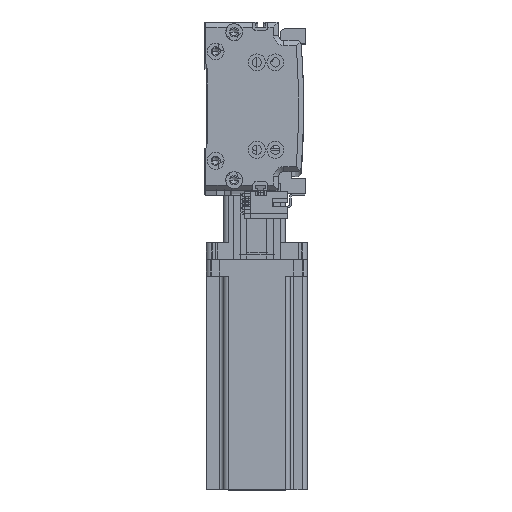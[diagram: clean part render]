
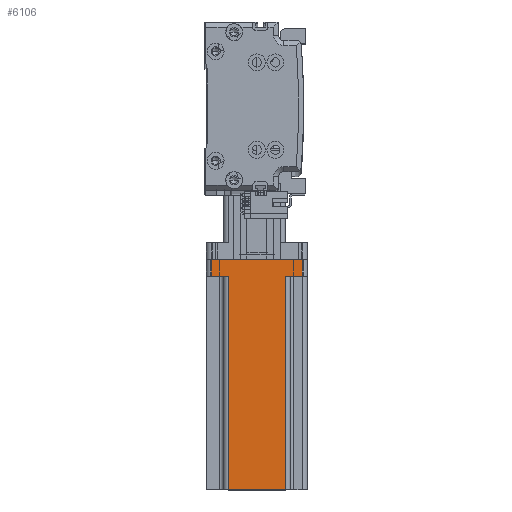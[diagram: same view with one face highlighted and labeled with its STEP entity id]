
A CAD part, top view. The second image highlights one B-rep face of the part: STEP entity #6106.
In plain terms, the highlighted planar face has unit normal (0, 0, 1) as drawn and (0, 1, 0) by its records, which use the part's own axes.
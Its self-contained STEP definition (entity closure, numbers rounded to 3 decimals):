
#573 = EDGE_LOOP ( 'NONE', ( #27130, #33996, #35993, #58019, #30181, #28430, #46991, #48408 ) ) ;
#667 = CARTESIAN_POINT ( 'NONE',  ( -27., 30., 10. ) ) ;
#1924 = CARTESIAN_POINT ( 'NONE',  ( -17., 30., 137. ) ) ;
#2010 = FACE_OUTER_BOUND ( 'NONE', #573, .T. ) ;
#3356 = EDGE_CURVE ( 'NONE', #17528, #54970, #30230, .T. ) ;
#3613 = DIRECTION ( 'NONE',  ( 0., 0., 1. ) ) ;
#3770 = CARTESIAN_POINT ( 'NONE',  ( 27., 30., 137. ) ) ;
#4952 = EDGE_CURVE ( 'NONE', #17528, #9051, #21407, .T. ) ;
#6106 = ADVANCED_FACE ( 'NONE', ( #2010 ), #19631, .F. ) ;
#8042 = CARTESIAN_POINT ( 'NONE',  ( -17., 30., 10. ) ) ;
#9051 = VERTEX_POINT ( 'NONE', #30397 ) ;
#10180 = CARTESIAN_POINT ( 'NONE',  ( 17., 30., 137. ) ) ;
#10466 = CARTESIAN_POINT ( 'NONE',  ( 27., 30., 10. ) ) ;
#11987 = VECTOR ( 'NONE', #17622, 1000. ) ;
#12785 = VECTOR ( 'NONE', #3613, 1000. ) ;
#13925 = DIRECTION ( 'NONE',  ( 0., 0., -1. ) ) ;
#14006 = CARTESIAN_POINT ( 'NONE',  ( 17., 30., 137. ) ) ;
#14055 = CARTESIAN_POINT ( 'NONE',  ( 27., 30., 0. ) ) ;
#17128 = CARTESIAN_POINT ( 'NONE',  ( -27., 30., 137. ) ) ;
#17458 = LINE ( 'NONE', #30720, #38213 ) ;
#17528 = VERTEX_POINT ( 'NONE', #10180 ) ;
#17622 = DIRECTION ( 'NONE',  ( 0., 0., 1. ) ) ;
#18278 = DIRECTION ( 'NONE',  ( 1., 0., 0. ) ) ;
#18479 = DIRECTION ( 'NONE',  ( 0., -1., 0. ) ) ;
#18571 = EDGE_CURVE ( 'NONE', #27487, #9051, #53073, .T. ) ;
#18601 = CARTESIAN_POINT ( 'NONE',  ( 30., 30., 137. ) ) ;
#19062 = CARTESIAN_POINT ( 'NONE',  ( 20., 30., 10. ) ) ;
#19631 = PLANE ( 'NONE',  #30895 ) ;
#19971 = VECTOR ( 'NONE', #13925, 1000. ) ;
#21407 = LINE ( 'NONE', #14006, #19971 ) ;
#22821 = DIRECTION ( 'NONE',  ( -1., 0., 0. ) ) ;
#24099 = EDGE_CURVE ( 'NONE', #35458, #47129, #17458, .T. ) ;
#27130 = ORIENTED_EDGE ( 'NONE', *, *, #24099, .T. ) ;
#27487 = VERTEX_POINT ( 'NONE', #10466 ) ;
#27678 = VECTOR ( 'NONE', #57123, 1000. ) ;
#28430 = ORIENTED_EDGE ( 'NONE', *, *, #32195, .T. ) ;
#30181 = ORIENTED_EDGE ( 'NONE', *, *, #18571, .F. ) ;
#30230 = LINE ( 'NONE', #33827, #54113 ) ;
#30397 = CARTESIAN_POINT ( 'NONE',  ( 17., 30., 10. ) ) ;
#30720 = CARTESIAN_POINT ( 'NONE',  ( -20., 30., 10. ) ) ;
#30895 = AXIS2_PLACEMENT_3D ( 'NONE', #18601, #18479, #18278 ) ;
#31351 = LINE ( 'NONE', #51316, #42421 ) ;
#32195 = EDGE_CURVE ( 'NONE', #27487, #54726, #47997, .T. ) ;
#32227 = DIRECTION ( 'NONE',  ( 0., 0., -1. ) ) ;
#33441 = DIRECTION ( 'NONE',  ( -1., 0., 0. ) ) ;
#33827 = CARTESIAN_POINT ( 'NONE',  ( 30., 30., 137. ) ) ;
#33996 = ORIENTED_EDGE ( 'NONE', *, *, #46567, .T. ) ;
#35458 = VERTEX_POINT ( 'NONE', #667 ) ;
#35993 = ORIENTED_EDGE ( 'NONE', *, *, #3356, .F. ) ;
#38213 = VECTOR ( 'NONE', #59271, 1000. ) ;
#42421 = VECTOR ( 'NONE', #22821, 1000. ) ;
#45819 = EDGE_CURVE ( 'NONE', #53777, #35458, #50668, .T. ) ;
#46567 = EDGE_CURVE ( 'NONE', #47129, #54970, #49866, .T. ) ;
#46991 = ORIENTED_EDGE ( 'NONE', *, *, #55510, .T. ) ;
#47129 = VERTEX_POINT ( 'NONE', #8042 ) ;
#47997 = LINE ( 'NONE', #3770, #59214 ) ;
#48408 = ORIENTED_EDGE ( 'NONE', *, *, #45819, .T. ) ;
#48638 = CARTESIAN_POINT ( 'NONE',  ( -27., 30., 0. ) ) ;
#49866 = LINE ( 'NONE', #55703, #11987 ) ;
#50668 = LINE ( 'NONE', #17128, #12785 ) ;
#51316 = CARTESIAN_POINT ( 'NONE',  ( 30., 30., 0. ) ) ;
#53073 = LINE ( 'NONE', #19062, #27678 ) ;
#53777 = VERTEX_POINT ( 'NONE', #48638 ) ;
#54113 = VECTOR ( 'NONE', #33441, 1000. ) ;
#54726 = VERTEX_POINT ( 'NONE', #14055 ) ;
#54970 = VERTEX_POINT ( 'NONE', #1924 ) ;
#55510 = EDGE_CURVE ( 'NONE', #54726, #53777, #31351, .T. ) ;
#55703 = CARTESIAN_POINT ( 'NONE',  ( -17., 30., 137. ) ) ;
#57123 = DIRECTION ( 'NONE',  ( -1., 0., 0. ) ) ;
#58019 = ORIENTED_EDGE ( 'NONE', *, *, #4952, .T. ) ;
#59214 = VECTOR ( 'NONE', #32227, 1000. ) ;
#59271 = DIRECTION ( 'NONE',  ( 1., 0., 0. ) ) ;
